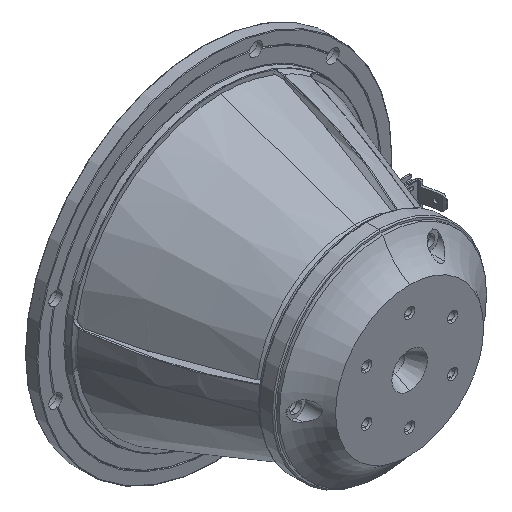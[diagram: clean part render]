
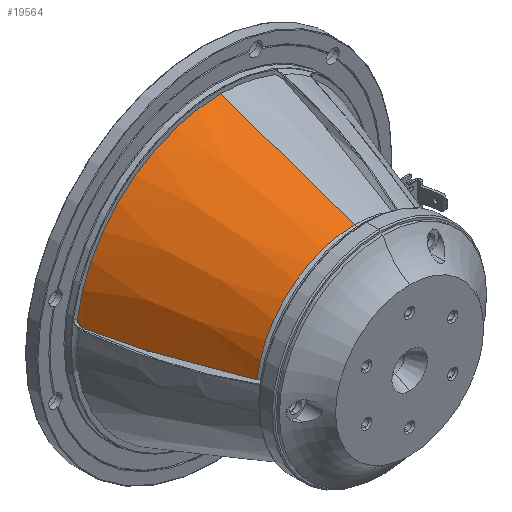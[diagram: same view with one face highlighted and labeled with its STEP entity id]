
A CAD part, isometric view. The second image highlights one B-rep face of the part: STEP entity #19564.
In plain terms, the highlighted conical face has half-angle 19.069 degrees and reference radius 50.012 mm.
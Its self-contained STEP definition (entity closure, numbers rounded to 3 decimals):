
#294 = CARTESIAN_POINT ( 'NONE',  ( -48.383, 63.311, 5.972 ) ) ;
#944 = CIRCLE ( 'NONE', #8343, 48.92 ) ;
#1394 = CARTESIAN_POINT ( 'NONE',  ( -42.447, 45.65, 4.111 ) ) ;
#1963 = DIRECTION ( 'NONE',  ( 0., 0., 1. ) ) ;
#2130 = DIRECTION ( 'NONE',  ( 0., 0., 1. ) ) ;
#2502 = EDGE_CURVE ( 'NONE', #30667, #28896, #16575, .T. ) ;
#2876 = CARTESIAN_POINT ( 'NONE',  ( -48.427, 63.696, 6.669 ) ) ;
#3057 = CARTESIAN_POINT ( 'NONE',  ( 0., 18.57, 0. ) ) ;
#3366 = VECTOR ( 'NONE', #26040, 1000. ) ;
#3669 = CARTESIAN_POINT ( 'NONE',  ( -42.425, 45.582, 4.09 ) ) ;
#4298 = CARTESIAN_POINT ( 'NONE',  ( -48.059, 62.124, 5.208 ) ) ;
#4638 = EDGE_CURVE ( 'NONE', #7187, #5089, #21599, .T. ) ;
#4884 = CARTESIAN_POINT ( 'NONE',  ( 0., 18.57, 33.285 ) ) ;
#5089 = VERTEX_POINT ( 'NONE', #21728 ) ;
#5104 = B_SPLINE_CURVE_WITH_KNOTS ( 'NONE', 3,
 ( #16179, #20534, #16027, #23325 ),
 .UNSPECIFIED., .F., .F.,
 ( 4, 4 ),
 ( 0., 0.017 ),
 .UNSPECIFIED. ) ;
#5175 = CARTESIAN_POINT ( 'NONE',  ( -47.974, 61.87, 5.18 ) ) ;
#5862 = AXIS2_PLACEMENT_3D ( 'NONE', #3057, #8344, #15008 ) ;
#5997 = CARTESIAN_POINT ( 'NONE',  ( -42.371, 45.393, 3.971 ) ) ;
#6185 = CARTESIAN_POINT ( 'NONE',  ( 0., 63.8, 0. ) ) ;
#6257 = CARTESIAN_POINT ( 'NONE',  ( -39.27, 36.396, 3.741 ) ) ;
#6367 = CARTESIAN_POINT ( 'NONE',  ( -42.497, 45.774, 4.036 ) ) ;
#6406 = CARTESIAN_POINT ( 'NONE',  ( -36.157, 27.477, 3.885 ) ) ;
#6550 = CARTESIAN_POINT ( 'NONE',  ( -34.588, 23.02, 4.08 ) ) ;
#6754 = DIRECTION ( 'NONE',  ( 0., 1., 0. ) ) ;
#7187 = VERTEX_POINT ( 'NONE', #8015 ) ;
#7654 = CARTESIAN_POINT ( 'NONE',  ( -42.346, 45.321, 3.968 ) ) ;
#8015 = CARTESIAN_POINT ( 'NONE',  ( -42.472, 45.711, 4.077 ) ) ;
#8329 = CARTESIAN_POINT ( 'NONE',  ( -42.417, 45.552, 4.068 ) ) ;
#8343 = AXIS2_PLACEMENT_3D ( 'NONE', #6185, #27592, #2130 ) ;
#8344 = DIRECTION ( 'NONE',  ( 0., -1., 0. ) ) ;
#9288 = CARTESIAN_POINT ( 'NONE',  ( 0., 66.959, 50.012 ) ) ;
#9324 = CARTESIAN_POINT ( 'NONE',  ( -48.368, 63.8, 7.323 ) ) ;
#9610 = B_SPLINE_CURVE_WITH_KNOTS ( 'NONE', 3,
 ( #27247, #5997, #10654, #20127, #8329, #3669, #13130, #22626, #1394, #10814, #20274, #21012 ),
 .UNSPECIFIED., .F., .F.,
 ( 4, 2, 2, 2, 2, 4 ),
 ( 0., 0., 0., 0., 0., 0. ),
 .UNSPECIFIED. ) ;
#9709 = CARTESIAN_POINT ( 'NONE',  ( -48.368, 63.8, 7.323 ) ) ;
#9831 = VERTEX_POINT ( 'NONE', #30006 ) ;
#9843 = EDGE_CURVE ( 'NONE', #12676, #9831, #14499, .T. ) ;
#10401 = AXIS2_PLACEMENT_3D ( 'NONE', #24838, #6754, #1963 ) ;
#10502 = EDGE_CURVE ( 'NONE', #20302, #28896, #944, .T. ) ;
#10654 = CARTESIAN_POINT ( 'NONE',  ( -42.392, 45.461, 4.004 ) ) ;
#10814 = CARTESIAN_POINT ( 'NONE',  ( -42.459, 45.682, 4.097 ) ) ;
#10826 = CIRCLE ( 'NONE', #5862, 33.285 ) ;
#11400 = CONICAL_SURFACE ( 'NONE', #10401, 50.012, 0.333 ) ;
#12362 = CARTESIAN_POINT ( 'NONE',  ( -48.345, 63.132, 5.777 ) ) ;
#12591 = ORIENTED_EDGE ( 'NONE', *, *, #25029, .F. ) ;
#12676 = VERTEX_POINT ( 'NONE', #7654 ) ;
#13130 = CARTESIAN_POINT ( 'NONE',  ( -42.43, 45.597, 4.101 ) ) ;
#14350 = VERTEX_POINT ( 'NONE', #5175 ) ;
#14499 = B_SPLINE_CURVE_WITH_KNOTS ( 'NONE', 3,
 ( #27825, #15568, #6257, #6406, #6550, #15864 ),
 .UNSPECIFIED., .F., .F.,
 ( 4, 2, 4 ),
 ( 0.018, 0.032, 0.046 ),
 .UNSPECIFIED. ) ;
#15008 = DIRECTION ( 'NONE',  ( 0., 0., -1. ) ) ;
#15568 = CARTESIAN_POINT ( 'NONE',  ( -40.813, 40.858, 3.794 ) ) ;
#15864 = CARTESIAN_POINT ( 'NONE',  ( -32.99, 18.57, 4.423 ) ) ;
#16027 = CARTESIAN_POINT ( 'NONE',  ( -44.426, 51.379, 4.223 ) ) ;
#16179 = CARTESIAN_POINT ( 'NONE',  ( -47.974, 61.87, 5.18 ) ) ;
#16232 = CARTESIAN_POINT ( 'NONE',  ( -48.321, 63.033, 5.687 ) ) ;
#16575 = LINE ( 'NONE', #9288, #3366 ) ;
#17159 = ORIENTED_EDGE ( 'NONE', *, *, #4638, .F. ) ;
#17586 = ORIENTED_EDGE ( 'NONE', *, *, #27634, .F. ) ;
#18276 = CARTESIAN_POINT ( 'NONE',  ( -47.974, 61.87, 5.18 ) ) ;
#18316 = CARTESIAN_POINT ( 'NONE',  ( -42.602, 46.065, 3.998 ) ) ;
#18574 = CARTESIAN_POINT ( 'NONE',  ( -48.237, 62.716, 5.46 ) ) ;
#19012 = CARTESIAN_POINT ( 'NONE',  ( -48.399, 63.391, 6.077 ) ) ;
#19173 = CARTESIAN_POINT ( 'NONE',  ( -48.423, 63.734, 6.796 ) ) ;
#19564 = ADVANCED_FACE ( 'NONE', ( #28032 ), #11400, .T. ) ;
#20127 = CARTESIAN_POINT ( 'NONE',  ( -42.413, 45.537, 4.057 ) ) ;
#20274 = CARTESIAN_POINT ( 'NONE',  ( -42.466, 45.696, 4.087 ) ) ;
#20302 = VERTEX_POINT ( 'NONE', #9324 ) ;
#20534 = CARTESIAN_POINT ( 'NONE',  ( -46.21, 56.623, 4.613 ) ) ;
#20630 = CARTESIAN_POINT ( 'NONE',  ( -42.576, 45.992, 4. ) ) ;
#20978 = B_SPLINE_CURVE_WITH_KNOTS ( 'NONE', 3,
 ( #18276, #4298, #30354, #18574, #28045, #16232, #12362, #294, #19012, #30659, #24136, #2876, #19173, #28658, #21194, #9709 ),
 .UNSPECIFIED., .F., .F.,
 ( 4, 2, 2, 2, 2, 2, 2, 4 ),
 ( 0., 0.001, 0.001, 0.002, 0.002, 0.002, 0.003, 0.003 ),
 .UNSPECIFIED. ) ;
#21012 = CARTESIAN_POINT ( 'NONE',  ( -42.472, 45.711, 4.077 ) ) ;
#21194 = CARTESIAN_POINT ( 'NONE',  ( -48.388, 63.8, 7.192 ) ) ;
#21596 = CARTESIAN_POINT ( 'NONE',  ( 0., 63.8, 48.92 ) ) ;
#21599 = B_SPLINE_CURVE_WITH_KNOTS ( 'NONE', 3,
 ( #27624, #6367, #25297, #20630, #18316, #27786 ),
 .UNSPECIFIED., .F., .F.,
 ( 4, 2, 4 ),
 ( 0., 0., 0. ),
 .UNSPECIFIED. ) ;
#21728 = CARTESIAN_POINT ( 'NONE',  ( -42.627, 46.138, 4.001 ) ) ;
#21816 = EDGE_CURVE ( 'NONE', #12676, #7187, #9610, .T. ) ;
#22316 = ORIENTED_EDGE ( 'NONE', *, *, #21816, .F. ) ;
#22626 = CARTESIAN_POINT ( 'NONE',  ( -42.44, 45.631, 4.114 ) ) ;
#22994 = EDGE_CURVE ( 'NONE', #14350, #5089, #5104, .T. ) ;
#23325 = CARTESIAN_POINT ( 'NONE',  ( -42.627, 46.138, 4.001 ) ) ;
#24136 = CARTESIAN_POINT ( 'NONE',  ( -48.425, 63.596, 6.421 ) ) ;
#24757 = ORIENTED_EDGE ( 'NONE', *, *, #22994, .T. ) ;
#24838 = CARTESIAN_POINT ( 'NONE',  ( 0., 66.959, 0. ) ) ;
#25029 = EDGE_CURVE ( 'NONE', #14350, #20302, #20978, .T. ) ;
#25163 = ORIENTED_EDGE ( 'NONE', *, *, #2502, .T. ) ;
#25297 = CARTESIAN_POINT ( 'NONE',  ( -42.524, 45.847, 4.021 ) ) ;
#26040 = DIRECTION ( 'NONE',  ( 0., 0.945, 0.327 ) ) ;
#27247 = CARTESIAN_POINT ( 'NONE',  ( -42.346, 45.321, 3.968 ) ) ;
#27277 = EDGE_LOOP ( 'NONE', ( #17586, #25163, #28210, #12591, #24757, #17159, #22316, #30305 ) ) ;
#27592 = DIRECTION ( 'NONE',  ( 0., 1., 0. ) ) ;
#27624 = CARTESIAN_POINT ( 'NONE',  ( -42.472, 45.711, 4.077 ) ) ;
#27634 = EDGE_CURVE ( 'NONE', #30667, #9831, #10826, .T. ) ;
#27786 = CARTESIAN_POINT ( 'NONE',  ( -42.627, 46.138, 4.001 ) ) ;
#27825 = CARTESIAN_POINT ( 'NONE',  ( -42.346, 45.321, 3.968 ) ) ;
#28032 = FACE_OUTER_BOUND ( 'NONE', #27277, .T. ) ;
#28045 = CARTESIAN_POINT ( 'NONE',  ( -48.267, 62.826, 5.529 ) ) ;
#28210 = ORIENTED_EDGE ( 'NONE', *, *, #10502, .F. ) ;
#28658 = CARTESIAN_POINT ( 'NONE',  ( -48.403, 63.786, 7.057 ) ) ;
#28896 = VERTEX_POINT ( 'NONE', #21596 ) ;
#30006 = CARTESIAN_POINT ( 'NONE',  ( -32.99, 18.57, 4.423 ) ) ;
#30305 = ORIENTED_EDGE ( 'NONE', *, *, #9843, .T. ) ;
#30354 = CARTESIAN_POINT ( 'NONE',  ( -48.136, 62.369, 5.282 ) ) ;
#30659 = CARTESIAN_POINT ( 'NONE',  ( -48.419, 63.534, 6.301 ) ) ;
#30667 = VERTEX_POINT ( 'NONE', #4884 ) ;
